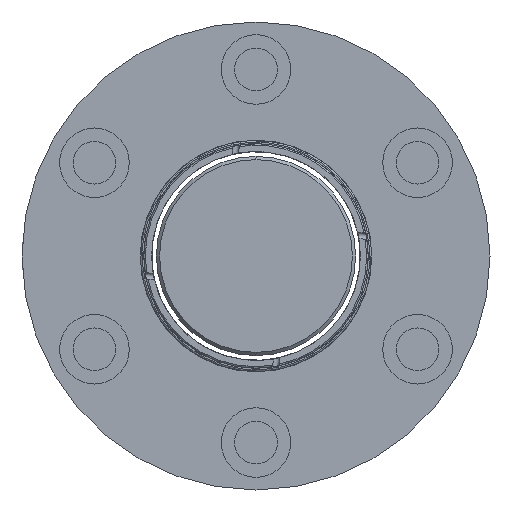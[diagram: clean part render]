
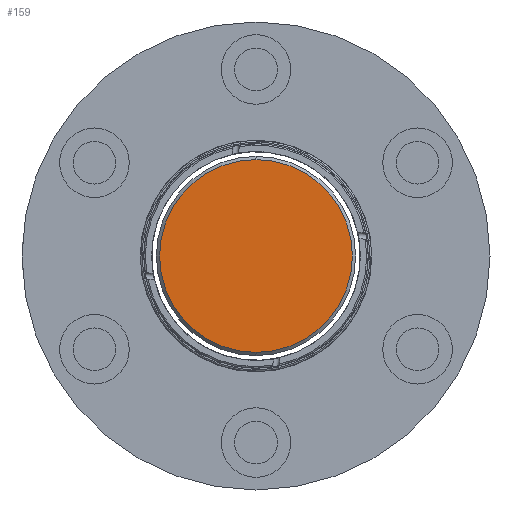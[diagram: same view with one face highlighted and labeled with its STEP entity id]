
A CAD part, left-side view. The second image highlights one B-rep face of the part: STEP entity #159.
In plain terms, the highlighted planar face has unit normal (-1, 0, 0).
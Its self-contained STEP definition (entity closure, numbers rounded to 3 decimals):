
#150 = EDGE_LOOP ( 'NONE', ( #2095, #1609 ) ) ;
#159 = ADVANCED_FACE ( 'NONE', ( #194 ), #1952, .T. ) ;
#194 = FACE_OUTER_BOUND ( 'NONE', #150, .T. ) ;
#319 = CARTESIAN_POINT ( 'NONE',  ( -10., 0., 0. ) ) ;
#406 = DIRECTION ( 'NONE',  ( 0., 0., 1. ) ) ;
#644 = DIRECTION ( 'NONE',  ( -1., 0., 0. ) ) ;
#686 = CARTESIAN_POINT ( 'NONE',  ( -10., 0., 0. ) ) ;
#757 = AXIS2_PLACEMENT_3D ( 'NONE', #1728, #1073, #3668 ) ;
#774 = EDGE_CURVE ( 'NONE', #3666, #2087, #3310, .T. ) ;
#864 = AXIS2_PLACEMENT_3D ( 'NONE', #319, #644, #3558 ) ;
#1073 = DIRECTION ( 'NONE',  ( -1., 0., 0. ) ) ;
#1540 = EDGE_CURVE ( 'NONE', #2087, #3666, #2736, .T. ) ;
#1609 = ORIENTED_EDGE ( 'NONE', *, *, #774, .T. ) ;
#1728 = CARTESIAN_POINT ( 'NONE',  ( -10., 0., 0. ) ) ;
#1952 = PLANE ( 'NONE',  #2970 ) ;
#2087 = VERTEX_POINT ( 'NONE', #3282 ) ;
#2095 = ORIENTED_EDGE ( 'NONE', *, *, #1540, .T. ) ;
#2303 = CARTESIAN_POINT ( 'NONE',  ( -10., 0., 30.5 ) ) ;
#2350 = DIRECTION ( 'NONE',  ( -1., 0., 0. ) ) ;
#2736 = CIRCLE ( 'NONE', #864, 30.5 ) ;
#2970 = AXIS2_PLACEMENT_3D ( 'NONE', #686, #2350, #406 ) ;
#3282 = CARTESIAN_POINT ( 'NONE',  ( -10., 0., -30.5 ) ) ;
#3310 = CIRCLE ( 'NONE', #757, 30.5 ) ;
#3558 = DIRECTION ( 'NONE',  ( 0., 0., 1. ) ) ;
#3666 = VERTEX_POINT ( 'NONE', #2303 ) ;
#3668 = DIRECTION ( 'NONE',  ( 0., 0., 1. ) ) ;
